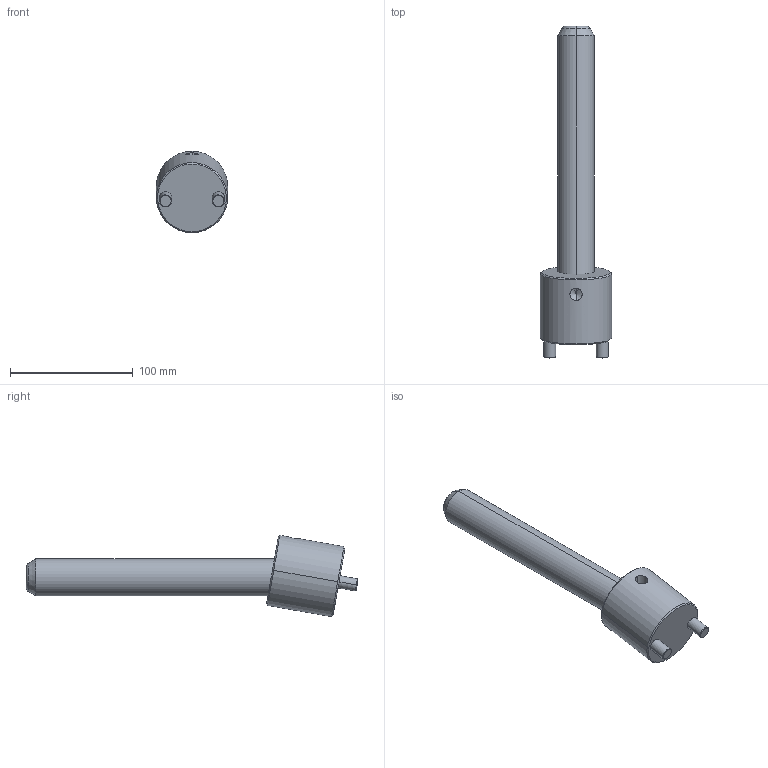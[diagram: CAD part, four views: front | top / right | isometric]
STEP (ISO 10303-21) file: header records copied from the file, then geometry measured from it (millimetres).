
FILE_DESCRIPTION(('CATIA V5 STEP Exchange'),'2;1');
FILE_NAME('C:\Users\Raffaele\Desktop\3D BOLEX\3D FILES CF BOLEX\19-INCLINED ASSEMBLY REF_CI\CI1030200.stp','2019-06-21T14:00:25+00:00',('none'),('none'),'CATIA Version 5 Release 20 GA (IN-10)','CATIA V5 STEP AP203','none');
FILE_SCHEMA(('CONFIG_CONTROL_DESIGN'));
Length unit declared in the file: millimetre
Products named in the file (1): CI1030200
Assembly tree (2 placements, depth 2):
  CI1030200
    #58
    #584
Bounding box: 58 x 270.76 x 66.32 mm (x, y, z)
Volume: 284979.7 mm3; surface area: 44977.6 mm2
Topology: 2 solids, 2 shells, 39 faces, 82 edges, 47 vertices
Faces by surface type: cone 14, cylinder 14, plane 7, torus 4
Entity records: 1539 total; most frequent: CARTESIAN_POINT 676, ORIENTED_EDGE 160, DIRECTION 147, EDGE_CURVE 80, AXIS2_PLACEMENT_3D 74, VERTEX_POINT 47, EDGE_LOOP 43, ADVANCED_FACE 39
